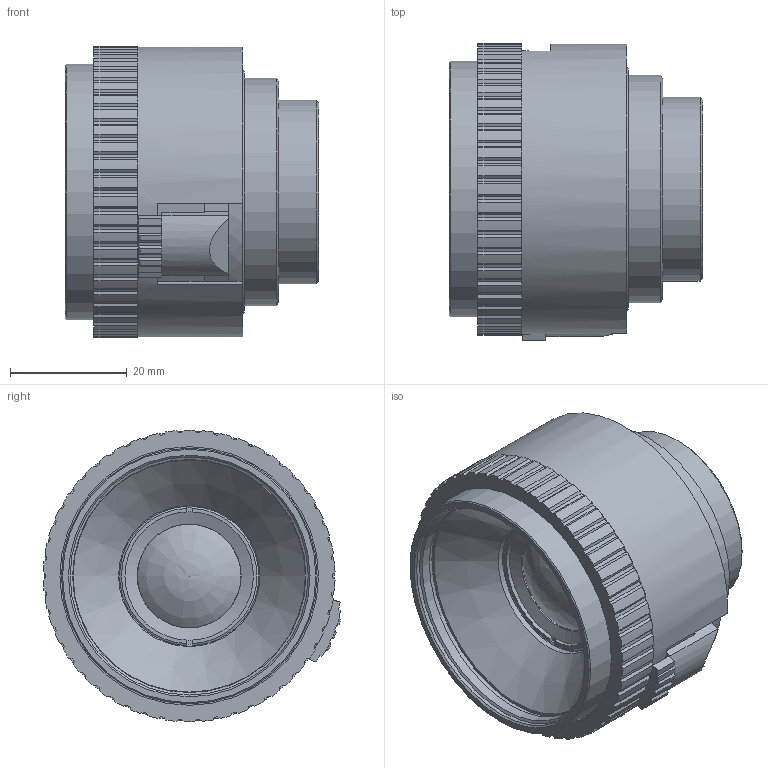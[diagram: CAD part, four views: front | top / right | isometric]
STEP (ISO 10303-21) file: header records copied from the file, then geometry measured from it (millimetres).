
FILE_DESCRIPTION(/* description */ (''),/* implementation_level */ '2;1');
FILE_NAME(/* name */ '0701-345-100-40_AP',/* time_stamp */ '2009-08-03T14:58:34+02:00',/* author */ (''),/* organization */ (''),/* preprocessor_version */ 'ST-DEVELOPER v9',/* originating_system */ 'UGS - NX 4.0',/* authorisation */ '');
FILE_SCHEMA (('AUTOMOTIVE_DESIGN { 1 0 10303 214 1 1 1 1 }'));
Length unit declared in the file: millimetre
Products named in the file (1): pant14D6sim4
Bounding box: 43.5 x 50.94 x 50 mm (x, y, z)
Volume: 49056.3 mm3; surface area: 24982.6 mm2
Topology: 1 solids, 6 shells, 496 faces, 1276 edges, 812 vertices
Faces by surface type: plane 343, cylinder 122, cone 29, revolution 2
Full cylindrical faces by diameter (mm): 17.8 x1, 21 x1, 21.2 x1, 23.459 x1, 24 x1, 24.2 x1, 26.459 x1, 27.2 x1, 28.7 x1, 28.959 x1, 31.3 x1, 31.5 x1, 35.6 x1, 37 x2, 37.2 x3, 37.459 x2, 38 x1, 39 x2, 39.7 x1, 39.8 x2, 39.959 x1, 40.2 x1, 40.35 x2, 40.5 x3, 40.8 x2, 42.2 x1, 42.5 x1, 43.8 x1, 44.3 x1, 49.7 x1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
Entity records: 18047 total; most frequent: CARTESIAN_POINT 2666, DIRECTION 2527, ORIENTED_EDGE 2372, EDGE_CURVE 1186, AXIS2_PLACEMENT_3D 872, VERTEX_POINT 787, LINE 781, VECTOR 781
